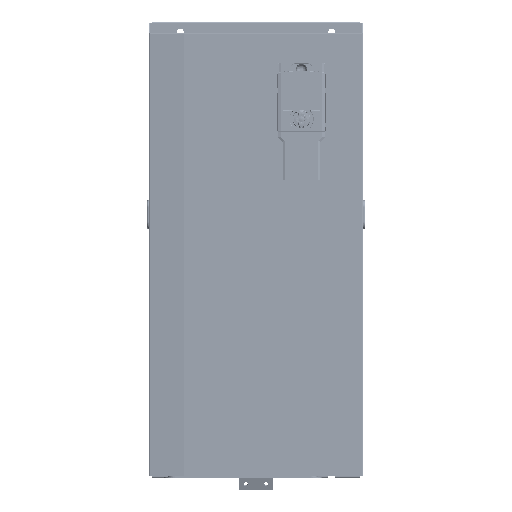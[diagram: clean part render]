
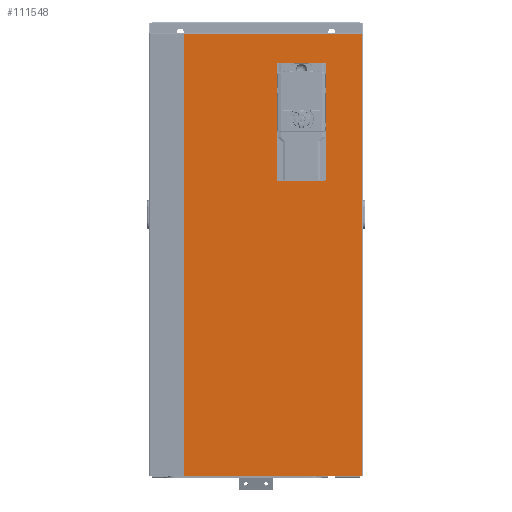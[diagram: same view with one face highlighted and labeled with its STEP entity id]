
A CAD part, front view. The second image highlights one B-rep face of the part: STEP entity #111548.
In plain terms, the highlighted planar face has unit normal (0, -1, 0) as drawn and (0, 1, 0) by its records, which use the part's own axes.
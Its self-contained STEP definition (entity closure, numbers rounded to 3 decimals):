
#110364=DIRECTION('',(0.,0.,-1.));
#110365=VECTOR('',#110364,168.5);
#110366=CARTESIAN_POINT('',(76.,0.,-108.2));
#110367=LINE('',#110366,#110365);
#110368=CARTESIAN_POINT('',(74.5,0.,-276.7));
#110369=DIRECTION('',(0.,1.,0.));
#110370=DIRECTION('',(1.,0.,0.));
#110371=AXIS2_PLACEMENT_3D('',#110368,#110369,#110370);
#110373=DIRECTION('',(-1.,0.,0.));
#110374=VECTOR('',#110373,67.);
#110375=CARTESIAN_POINT('',(74.5,0.,-278.2));
#110376=LINE('',#110375,#110374);
#110377=CARTESIAN_POINT('',(7.5,0.,-276.7));
#110378=DIRECTION('',(0.,1.,0.));
#110379=DIRECTION('',(0.,0.,-1.));
#110380=AXIS2_PLACEMENT_3D('',#110377,#110378,#110379);
#110382=DIRECTION('',(0.,0.,1.));
#110383=VECTOR('',#110382,168.5);
#110384=CARTESIAN_POINT('',(6.,0.,-276.7));
#110385=LINE('',#110384,#110383);
#110386=CARTESIAN_POINT('',(7.5,0.,-108.2));
#110387=DIRECTION('',(0.,1.,0.));
#110388=DIRECTION('',(-1.,0.,0.));
#110389=AXIS2_PLACEMENT_3D('',#110386,#110387,#110388);
#110391=DIRECTION('',(1.,0.,0.));
#110392=VECTOR('',#110391,67.);
#110393=CARTESIAN_POINT('',(7.5,0.,-106.7));
#110394=LINE('',#110393,#110392);
#110395=CARTESIAN_POINT('',(74.5,0.,-108.2));
#110396=DIRECTION('',(0.,1.,0.));
#110397=DIRECTION('',(0.,0.,1.));
#110398=AXIS2_PLACEMENT_3D('',#110395,#110396,#110397);
#110416=DIRECTION('',(0.,0.,1.));
#110417=VECTOR('',#110416,641.6);
#110418=CARTESIAN_POINT('',(-129.943,0.,-320.8));
#110419=LINE('',#110418,#110417);
#110460=DIRECTION('',(1.,0.,0.));
#110461=VECTOR('',#110460,258.743);
#110462=CARTESIAN_POINT('',(-129.943,0.,320.8));
#110463=LINE('',#110462,#110461);
#110620=DIRECTION('',(0.,0.,-1.));
#110621=VECTOR('',#110620,641.6);
#110622=CARTESIAN_POINT('',(128.8,0.,320.8));
#110623=LINE('',#110622,#110621);
#110700=DIRECTION('',(-1.,0.,0.));
#110701=VECTOR('',#110700,258.743);
#110702=CARTESIAN_POINT('',(128.8,0.,-320.8));
#110703=LINE('',#110702,#110701);
#111274=CARTESIAN_POINT('',(-129.943,0.,-320.8));
#111275=CARTESIAN_POINT('',(-129.943,0.,320.8));
#111276=VERTEX_POINT('',#111274);
#111277=VERTEX_POINT('',#111275);
#111278=CARTESIAN_POINT('',(128.8,0.,-320.8));
#111279=VERTEX_POINT('',#111278);
#111280=CARTESIAN_POINT('',(128.8,0.,320.8));
#111281=VERTEX_POINT('',#111280);
#111282=CARTESIAN_POINT('',(76.,0.,-108.2));
#111283=CARTESIAN_POINT('',(76.,0.,-276.7));
#111284=VERTEX_POINT('',#111282);
#111285=VERTEX_POINT('',#111283);
#111286=CARTESIAN_POINT('',(74.5,0.,-278.2));
#111287=VERTEX_POINT('',#111286);
#111288=CARTESIAN_POINT('',(7.5,0.,-278.2));
#111289=VERTEX_POINT('',#111288);
#111290=CARTESIAN_POINT('',(6.,0.,-276.7));
#111291=VERTEX_POINT('',#111290);
#111292=CARTESIAN_POINT('',(6.,0.,-108.2));
#111293=VERTEX_POINT('',#111292);
#111294=CARTESIAN_POINT('',(7.5,0.,-106.7));
#111295=VERTEX_POINT('',#111294);
#111296=CARTESIAN_POINT('',(74.5,0.,-106.7));
#111297=VERTEX_POINT('',#111296);
#111515=CARTESIAN_POINT('',(0.,0.,0.));
#111516=DIRECTION('',(0.,1.,0.));
#111517=DIRECTION('',(1.,0.,0.));
#111518=AXIS2_PLACEMENT_3D('',#111515,#111516,#111517);
#111519=PLANE('',#111518);
#111521=ORIENTED_EDGE('',*,*,#111520,.F.);
#111523=ORIENTED_EDGE('',*,*,#111522,.F.);
#111525=ORIENTED_EDGE('',*,*,#111524,.F.);
#111527=ORIENTED_EDGE('',*,*,#111526,.F.);
#111528=EDGE_LOOP('',(#111521,#111523,#111525,#111527));
#111529=FACE_OUTER_BOUND('',#111528,.F.);
#111531=ORIENTED_EDGE('',*,*,#111530,.T.);
#111533=ORIENTED_EDGE('',*,*,#111532,.T.);
#111535=ORIENTED_EDGE('',*,*,#111534,.T.);
#111537=ORIENTED_EDGE('',*,*,#111536,.T.);
#111539=ORIENTED_EDGE('',*,*,#111538,.T.);
#111541=ORIENTED_EDGE('',*,*,#111540,.T.);
#111543=ORIENTED_EDGE('',*,*,#111542,.T.);
#111545=ORIENTED_EDGE('',*,*,#111544,.T.);
#111546=EDGE_LOOP('',(#111531,#111533,#111535,#111537,#111539,#111541,#111543,
#111545));
#111547=FACE_BOUND('',#111546,.F.);
#110372=CIRCLE('',#110371,1.5);
#110381=CIRCLE('',#110380,1.5);
#110390=CIRCLE('',#110389,1.5);
#110399=CIRCLE('',#110398,1.5);
#111520=EDGE_CURVE('',#111276,#111277,#110419,.T.);
#111522=EDGE_CURVE('',#111279,#111276,#110703,.T.);
#111524=EDGE_CURVE('',#111281,#111279,#110623,.T.);
#111526=EDGE_CURVE('',#111277,#111281,#110463,.T.);
#111530=EDGE_CURVE('',#111284,#111285,#110367,.T.);
#111532=EDGE_CURVE('',#111285,#111287,#110372,.T.);
#111534=EDGE_CURVE('',#111287,#111289,#110376,.T.);
#111536=EDGE_CURVE('',#111289,#111291,#110381,.T.);
#111538=EDGE_CURVE('',#111291,#111293,#110385,.T.);
#111540=EDGE_CURVE('',#111293,#111295,#110390,.T.);
#111542=EDGE_CURVE('',#111295,#111297,#110394,.T.);
#111544=EDGE_CURVE('',#111297,#111284,#110399,.T.);
#111548=ADVANCED_FACE('',(#111529,#111547),#111519,.T.);
